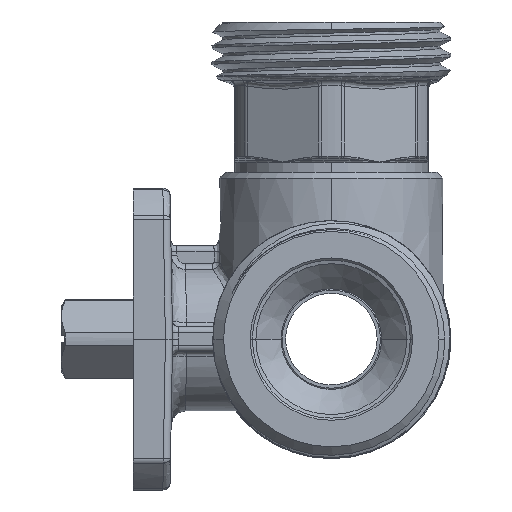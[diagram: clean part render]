
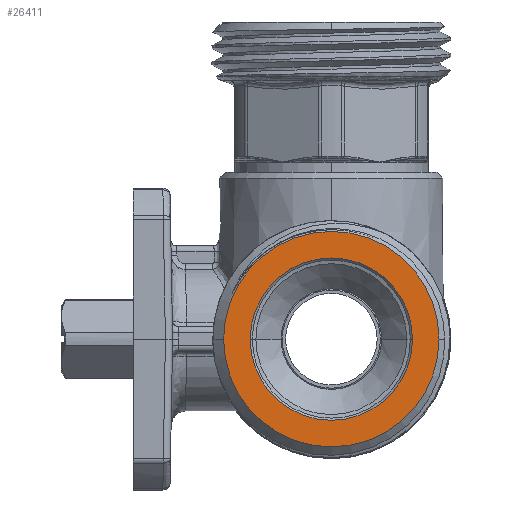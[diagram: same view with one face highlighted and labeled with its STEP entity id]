
A CAD part, left-side view. The second image highlights one B-rep face of the part: STEP entity #26411.
In plain terms, the highlighted planar face has unit normal (-1, 0, 0).
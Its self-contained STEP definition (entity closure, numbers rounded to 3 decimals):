
#2226=CARTESIAN_POINT('',(-44.1,0.,0.));
#2227=DIRECTION('',(1.,0.,0.));
#2228=DIRECTION('',(0.,1.,0.));
#2229=AXIS2_PLACEMENT_3D('',#2226,#2227,#2228);
#2490=CARTESIAN_POINT('',(-44.1,0.,0.));
#2491=DIRECTION('',(-1.,0.,0.));
#2492=DIRECTION('',(0.,1.,0.));
#2493=AXIS2_PLACEMENT_3D('',#2490,#2491,#2492);
#2495=CARTESIAN_POINT('',(-44.1,0.,0.));
#2496=DIRECTION('',(-1.,0.,0.));
#2497=DIRECTION('',(0.,1.,0.));
#2498=AXIS2_PLACEMENT_3D('',#2495,#2496,#2497);
#2500=CARTESIAN_POINT('',(-44.1,0.,0.));
#2501=DIRECTION('',(1.,0.,0.));
#2502=DIRECTION('',(0.,1.,0.));
#2503=AXIS2_PLACEMENT_3D('',#2500,#2501,#2502);
#22786=CARTESIAN_POINT('',(-44.1,11.3,0.));
#22787=VERTEX_POINT('',#22786);
#22788=CARTESIAN_POINT('',(-44.1,15.,0.));
#22790=VERTEX_POINT('',#22788);
#22802=CARTESIAN_POINT('',(-44.1,-11.3,0.));
#22803=VERTEX_POINT('',#22802);
#22804=CARTESIAN_POINT('',(-44.1,-15.,0.));
#22805=VERTEX_POINT('',#22804);
#26396=CARTESIAN_POINT('',(-44.1,0.,0.));
#26397=DIRECTION('',(-1.,0.,0.));
#26398=DIRECTION('',(0.,1.,0.));
#26399=AXIS2_PLACEMENT_3D('',#26396,#26397,#26398);
#26400=PLANE('',#26399);
#26401=ORIENTED_EDGE('',*,*,#25745,.T.);
#26402=ORIENTED_EDGE('',*,*,#26390,.F.);
#26403=EDGE_LOOP('',(#26401,#26402));
#26404=FACE_OUTER_BOUND('',#26403,.F.);
#26406=ORIENTED_EDGE('',*,*,#26405,.T.);
#26408=ORIENTED_EDGE('',*,*,#26407,.F.);
#26409=EDGE_LOOP('',(#26406,#26408));
#26410=FACE_BOUND('',#26409,.F.);
#2230=CIRCLE('',#2229,15.);
#2494=CIRCLE('',#2493,15.);
#2499=CIRCLE('',#2498,11.3);
#2504=CIRCLE('',#2503,11.3);
#25745=EDGE_CURVE('',#22790,#22805,#2230,.T.);
#26390=EDGE_CURVE('',#22790,#22805,#2494,.T.);
#26405=EDGE_CURVE('',#22787,#22803,#2499,.T.);
#26407=EDGE_CURVE('',#22787,#22803,#2504,.T.);
#26411=ADVANCED_FACE('',(#26404,#26410),#26400,.T.);
